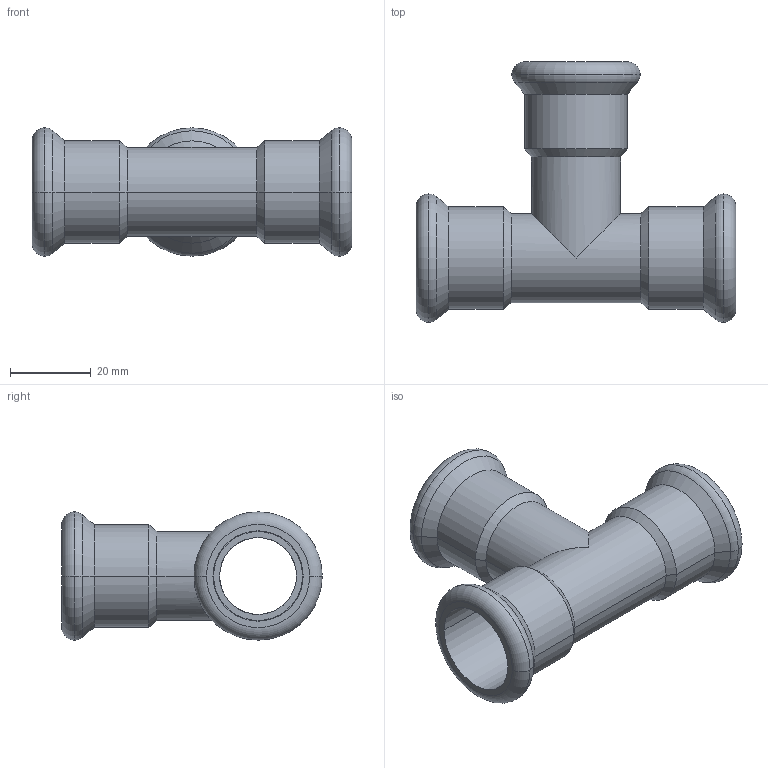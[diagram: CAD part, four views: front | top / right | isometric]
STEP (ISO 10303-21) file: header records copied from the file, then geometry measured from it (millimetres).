
FILE_DESCRIPTION(('CoCreate Modeling STEP Export'),'2;1');
FILE_NAME('C1414 22x22x22.stp','2014-11-11T16:55:39',(''),(''),'CoCreate Modeling STEP processor for AP214 (Solid Model)','CoCreate Modeling 17.00A 17-Jun-2010 (C) Parametric Technology GmbH','');
FILE_SCHEMA(('AUTOMOTIVE_DESIGN { 1 0 10303 214 1 1 1 1 }'));
Length unit declared in the file: millimetre
Products named in the file (2): C1414_22x22x22
Assembly tree (1 placements, depth 2):
  C1414_22x22x22
    C1414_22x22x22
Bounding box: 79 x 64.35 x 31.7 mm (x, y, z)
Volume: 17147.9 mm3; surface area: 18188.5 mm2
Topology: 1 solids, 1 shells, 59 faces, 129 edges, 77 vertices
Faces by surface type: cylinder 26, torus 12, cone 12, plane 9
Entity records: 1341 total; most frequent: ORIENTED_EDGE 258, DIRECTION 202, CARTESIAN_POINT 197, EDGE_CURVE 129, AXIS2_PLACEMENT_3D 82, VERTEX_POINT 77, EDGE_LOOP 68, FACE_OUTER_BOUND 59
